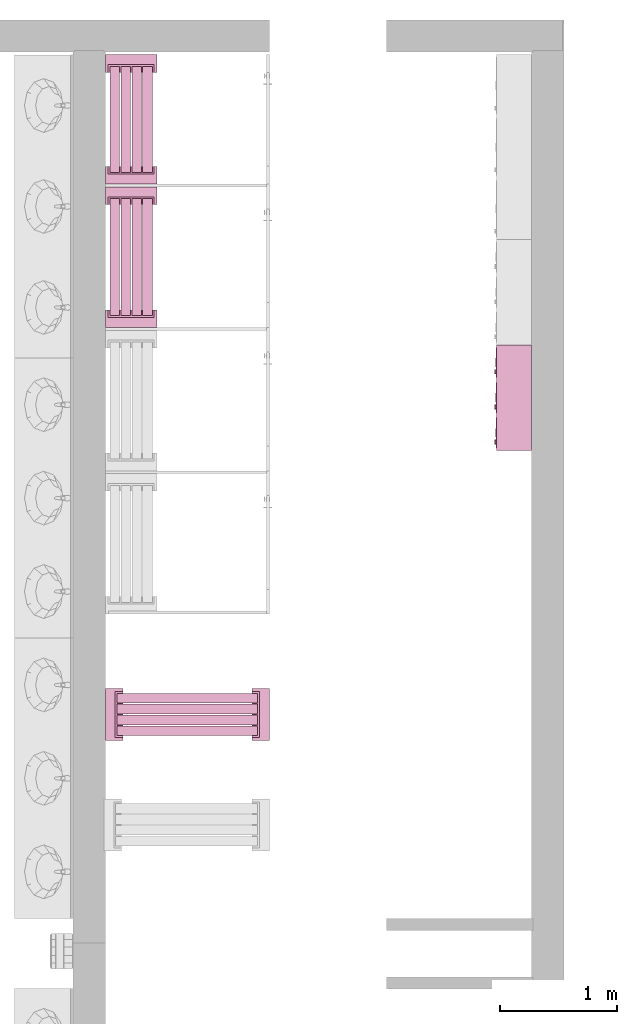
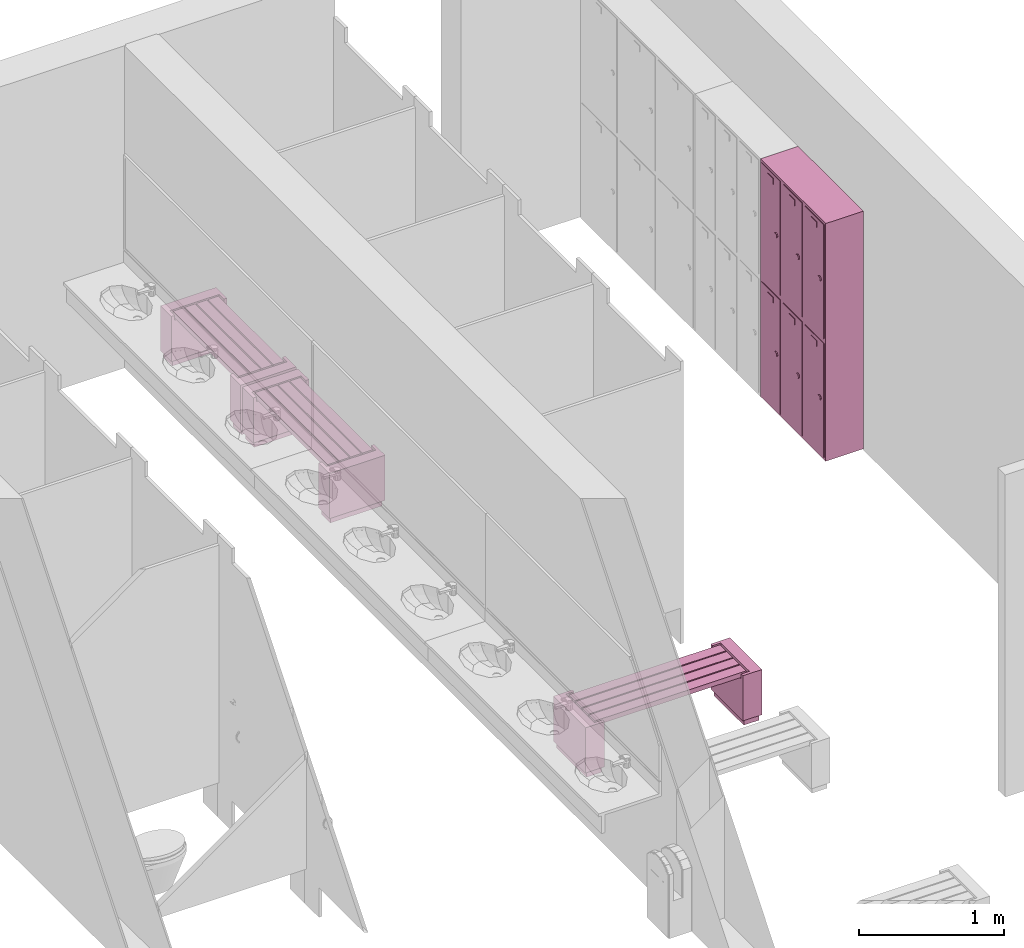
# One storey, part 14 of 22: 4 furnishings.
"""IFC2X3 building model written with IfcOpenShell, lengths in millimetres."""

from ifc_helpers import new_model, entity, si_unit, converted_unit, derived_unit, direction, frame, frame_2d, origin, origin_2d_with_axis, place, context, subcontext, project, spatial, polyline, rectangle, outline, extrude, source, transform, mapped, material, material_list, type_object, type_shapes, element, save


model = new_model("IFC2X3")

# Units and contexts
model_context = context("Model", 3, precision=0.01, world=origin(), true_north=direction((6.12303176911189e-17, 1.0)))
body_context = subcontext(model_context, "Body", "Model", "MODEL_VIEW")
ifc_project = project(units=[si_unit("LENGTHUNIT", "METRE", prefix="MILLI"), si_unit("AREAUNIT", "SQUARE_METRE"), si_unit("VOLUMEUNIT", "CUBIC_METRE"), converted_unit("PLANEANGLEUNIT", "DEGREE", entity("IfcRatioMeasure", 0.0174532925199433), si_unit("PLANEANGLEUNIT", "RADIAN"), dimensions=[0, 0, 0, 0, 0, 0, 0]), si_unit("MASSUNIT", "GRAM", prefix="KILO"), derived_unit("MASSDENSITYUNIT", [(si_unit("MASSUNIT", "GRAM", prefix="KILO"), 1), (si_unit("LENGTHUNIT", "METRE"), -3)]), si_unit("TIMEUNIT", "SECOND"), si_unit("FREQUENCYUNIT", "HERTZ"), si_unit("THERMODYNAMICTEMPERATUREUNIT", "DEGREE_CELSIUS"), derived_unit("THERMALTRANSMITTANCEUNIT", [(si_unit("MASSUNIT", "GRAM", prefix="KILO"), 1), (si_unit("THERMODYNAMICTEMPERATUREUNIT", "KELVIN"), -1), (si_unit("TIMEUNIT", "SECOND"), -3)]), derived_unit("VOLUMETRICFLOWRATEUNIT", [(si_unit("LENGTHUNIT", "METRE"), 3), (si_unit("TIMEUNIT", "SECOND"), -1)]), si_unit("ELECTRICCURRENTUNIT", "AMPERE"), si_unit("ELECTRICVOLTAGEUNIT", "VOLT"), si_unit("POWERUNIT", "WATT"), si_unit("FORCEUNIT", "NEWTON", prefix="KILO"), si_unit("ILLUMINANCEUNIT", "LUX"), si_unit("LUMINOUSFLUXUNIT", "LUMEN"), si_unit("LUMINOUSINTENSITYUNIT", "CANDELA"), derived_unit("USERDEFINED", [(si_unit("MASSUNIT", "GRAM", prefix="KILO"), -1), (si_unit("LENGTHUNIT", "METRE"), -2), (si_unit("TIMEUNIT", "SECOND"), 3), (si_unit("LUMINOUSFLUXUNIT", "LUMEN"), 1)]), derived_unit("LINEARVELOCITYUNIT", [(si_unit("LENGTHUNIT", "METRE"), 1), (si_unit("TIMEUNIT", "SECOND"), -1)]), si_unit("PRESSUREUNIT", "PASCAL"), derived_unit("USERDEFINED", [(si_unit("LENGTHUNIT", "METRE"), -2), (si_unit("MASSUNIT", "GRAM", prefix="KILO"), 1), (si_unit("TIMEUNIT", "SECOND"), -2)])], contexts=[model_context])

# Site, building, storey
site_placement = place(None, origin())
site = spatial("IfcSite", under=ifc_project, at=site_placement, Name="Default", CompositionType="ELEMENT")
building_placement = place(site_placement, origin())
building = spatial("IfcBuilding", under=site, at=building_placement, CompositionType="ELEMENT")
storey_placement = place(building_placement, frame((0.0, 0.0, -3000.0)))
storey = spatial("IfcBuildingStorey", under=building, at=storey_placement, Name="-2. Story", CompositionType="ELEMENT", Elevation=-3000.0)

# Furnishings
ifc_material_1 = material(Name="Metal - Stainless Steel")
ifc_material_2 = material(Name="Paint - Glossy White")
ifc_material_3 = material(Name="Paint - Cobalt Blue")
ifc_material_list_1 = material_list([ifc_material_1, ifc_material_2, ifc_material_3])
ifc_material_list_2 = material_list([ifc_material_1, ifc_material_2, ifc_material_3])
furniture_type_1 = type_object("IfcFurnitureType", Name="FU - 010", material=ifc_material_list_2)
shared_shape_1 = source(origin(), body_context, "Body", "SweptSolid", [
    extrude(outline(polyline([(-7.65366865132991, -18.4775906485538), (7.65366864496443, -18.4775906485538), (18.4775906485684, -7.65366865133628), (18.4775906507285, 7.65366863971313), (7.65366865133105, 18.4775906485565), (-7.65366864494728, 18.4775906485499), (-18.4775906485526, 7.65366865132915), (-18.4775906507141, -7.65366863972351), (-7.65366865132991, -18.4775906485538)])), frame((53933.5254833, 87773.9483369, -1400.0), z_axis=(1.0, 0.0, 0.0), x_axis=(0.0, 0.923879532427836, 0.382683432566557)), (0.0, 0.0, 1.0), 10.0000000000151),
    extrude(rectangle(XDim=4.99999999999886, YDim=75.0000000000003, at=origin_2d_with_axis()), frame((53941.0254833, 87853.9483369, -1000.0), z_axis=(0.0, 0.0, 1.0), x_axis=(-1.0, 0.0, 0.0)), (0.0, 0.0, 1.0), 50.0),
    extrude(rectangle(XDim=9.99999999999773, YDim=259.999999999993, at=frame_2d((0.0, 8.65441052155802e-12), x_axis=(1.0, 0.0))), frame((53948.5254833, 87853.9483369, -1880.0)), (0.0, 0.0, 1.0), 960.0),
    extrude(rectangle(XDim=20.0000000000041, YDim=300.000000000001, at=frame_2d((4.33164615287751e-12, 0.0), x_axis=(1.0, 0.0))), frame((54238.5254833, 87853.9483369, -1900.0), z_axis=(0.0, 0.0, 1.0), x_axis=(-1.0, 0.0, 0.0)), (0.0, 0.0, 1.0), 1000.0),
    extrude(outline(polyline([(-500.0, -150.0), (500.0, -150.0), (500.0, 150.0), (-500.0, 150.0), (-500.0, -150.0)]), holes=[polyline([(480.0, 130.0), (480.0, -130.0), (-480.0, -130.0), (-480.0, 130.0), (480.0, 130.0)])]), frame((53948.5254833, 87853.9483369, -1400.0), z_axis=(1.0, 0.0, 0.0), x_axis=(0.0, 0.0, -1.0)), (0.0, 0.0, 1.0), 279.999999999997),
    extrude(outline(polyline([(-7.65366865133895, -18.477590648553), (7.65366864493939, -18.477590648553), (18.4775906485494, -7.6536686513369), (18.4775906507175, 7.65366863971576), (7.65366865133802, 18.4775906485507), (-7.65366864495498, 18.4775906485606), (-18.477590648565, 7.65366865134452), (-18.4775906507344, -7.65366863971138), (-7.65366865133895, -18.477590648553)])), frame((53933.5254833, 87473.9483369, -1400.0), z_axis=(1.0, 0.0, 0.0), x_axis=(0.0, 0.923879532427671, 0.382683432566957)), (0.0, 0.0, 1.0), 10.0000000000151),
    extrude(rectangle(XDim=4.99999999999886, YDim=75.0000000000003, at=origin_2d_with_axis()), frame((53941.0254833, 87553.9483369, -1000.0), z_axis=(0.0, 0.0, 1.0), x_axis=(-1.0, 0.0, 0.0)), (0.0, 0.0, 1.0), 50.0),
    extrude(rectangle(XDim=9.99999999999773, YDim=259.999999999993, at=frame_2d((0.0, 8.65441052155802e-12), x_axis=(1.0, 0.0))), frame((53948.5254833, 87553.9483369, -1880.0)), (0.0, 0.0, 1.0), 960.0),
    extrude(rectangle(XDim=20.0000000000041, YDim=300.000000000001, at=frame_2d((4.33164615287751e-12, 0.0), x_axis=(1.0, 0.0))), frame((54238.5254833, 87553.9483369, -1900.0), z_axis=(0.0, 0.0, 1.0), x_axis=(-1.0, 0.0, 0.0)), (0.0, 0.0, 1.0), 1000.0),
    extrude(outline(polyline([(-500.0, -150.0), (500.0, -150.0), (500.0, 150.0), (-500.0, 150.0), (-500.0, -150.0)]), holes=[polyline([(480.0, 130.0), (480.0, -130.0), (-480.0, -130.0), (-480.0, 130.0), (480.0, 130.0)])]), frame((53948.5254833, 87553.9483369, -1400.0), z_axis=(1.0, 0.0, 0.0), x_axis=(0.0, 0.0, -1.0)), (0.0, 0.0, 1.0), 279.999999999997),
    extrude(outline(polyline([(-7.65366865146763, -18.4775906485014), (7.65366864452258, -18.4775906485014), (18.4775906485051, -7.65366865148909), (18.4775906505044, 7.65366863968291), (7.65366865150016, 18.4775906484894), (-7.6536686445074, 18.4775906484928), (-18.47759064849, 7.65366865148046), (-18.4775906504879, -7.65366863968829), (-7.65366865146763, -18.4775906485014)])), frame((53933.5254833, 87173.9483369, -1400.0), z_axis=(1.0, 0.0, 0.0), x_axis=(0.0, 0.923879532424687, 0.38268343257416)), (0.0, 0.0, 1.0), 10.0000000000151),
    extrude(rectangle(XDim=4.99999999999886, YDim=75.0000000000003, at=origin_2d_with_axis()), frame((53941.0254833, 87253.9483369, -1000.0), z_axis=(0.0, 0.0, 1.0), x_axis=(-1.0, 0.0, 0.0)), (0.0, 0.0, 1.0), 50.0),
    extrude(rectangle(XDim=9.99999999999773, YDim=259.999999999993, at=frame_2d((0.0, 8.65441052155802e-12), x_axis=(1.0, 0.0))), frame((53948.5254833, 87253.9483369, -1880.0)), (0.0, 0.0, 1.0), 960.0),
    extrude(rectangle(XDim=20.0000000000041, YDim=300.000000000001, at=frame_2d((4.33164615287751e-12, 0.0), x_axis=(1.0, 0.0))), frame((54238.5254833, 87253.9483369, -1900.0), z_axis=(0.0, 0.0, 1.0), x_axis=(-1.0, 0.0, 0.0)), (0.0, 0.0, 1.0), 1000.0),
    extrude(outline(polyline([(-500.0, -150.0), (500.0, -150.0), (500.0, 150.0), (-500.0, 150.0), (-500.0, -150.0)]), holes=[polyline([(480.0, 130.0), (480.0, -130.0), (-480.0, -130.0), (-480.0, 130.0), (480.0, 130.0)])]), frame((53948.5254833, 87253.9483369, -1400.0), z_axis=(1.0, 0.0, 0.0), x_axis=(0.0, 0.0, -1.0)), (0.0, 0.0, 1.0), 279.999999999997),
    extrude(outline(polyline([(-7.65366864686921, -18.4775906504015), (7.65366864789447, -18.4775906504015), (18.477590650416, -7.65366864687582), (18.4775906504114, 7.65366864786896), (7.65366864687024, 18.477590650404), (-7.65366864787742, 18.4775906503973), (-18.4775906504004, 7.65366864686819), (-18.4775906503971, -7.65366864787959), (-7.65366864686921, -18.4775906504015)])), frame((53933.5254833, 87773.9483369, -2400.0), z_axis=(1.0, 0.0, 0.0), x_axis=(0.0, 0.923879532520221, 0.382683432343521)), (0.0, 0.0, 1.0), 10.0000000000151),
    extrude(rectangle(XDim=4.99999999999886, YDim=75.0000000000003, at=origin_2d_with_axis()), frame((53941.0254833, 87853.9483369, -2000.0), z_axis=(0.0, 0.0, 1.0), x_axis=(-1.0, 0.0, 0.0)), (0.0, 0.0, 1.0), 50.0),
    extrude(rectangle(XDim=9.99999999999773, YDim=259.999999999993, at=frame_2d((0.0, 8.65441052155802e-12), x_axis=(1.0, 0.0))), frame((53948.5254833, 87853.9483369, -2880.0)), (0.0, 0.0, 1.0), 960.0),
    extrude(rectangle(XDim=20.0000000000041, YDim=300.000000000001, at=frame_2d((4.33164615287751e-12, 0.0), x_axis=(1.0, 0.0))), frame((54238.5254833, 87853.9483369, -2900.0), z_axis=(0.0, 0.0, 1.0), x_axis=(-1.0, 0.0, 0.0)), (0.0, 0.0, 1.0), 1000.0),
    extrude(outline(polyline([(-500.0, -150.0), (500.0, -150.0), (500.0, 150.0), (-500.0, 150.0), (-500.0, -150.0)]), holes=[polyline([(480.0, 130.0), (480.0, -130.0), (-480.0, -130.0), (-480.0, 130.0), (480.0, 130.0)])]), frame((53948.5254833, 87853.9483369, -2400.0), z_axis=(1.0, 0.0, 0.0), x_axis=(0.0, 0.0, -1.0)), (0.0, 0.0, 1.0), 279.999999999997),
    extrude(outline(polyline([(-7.65366864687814, -18.4775906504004), (7.65366864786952, -18.4775906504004), (18.4775906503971, -7.65366864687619), (18.4775906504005, 7.65366864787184), (7.65366864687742, 18.4775906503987), (-7.65366864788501, 18.4775906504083), (-18.4775906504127, 7.65366864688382), (-18.4775906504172, -7.65366864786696), (-7.65366864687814, -18.4775906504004)])), frame((53933.5254833, 87473.9483369, -2400.0), z_axis=(1.0, 0.0, 0.0), x_axis=(0.0, 0.923879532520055, 0.382683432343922)), (0.0, 0.0, 1.0), 10.0000000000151),
    extrude(rectangle(XDim=4.99999999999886, YDim=75.0000000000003, at=origin_2d_with_axis()), frame((53941.0254833, 87553.9483369, -2000.0), z_axis=(0.0, 0.0, 1.0), x_axis=(-1.0, 0.0, 0.0)), (0.0, 0.0, 1.0), 50.0),
    extrude(rectangle(XDim=9.99999999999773, YDim=259.999999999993, at=frame_2d((0.0, 8.65441052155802e-12), x_axis=(1.0, 0.0))), frame((53948.5254833, 87553.9483369, -2880.0)), (0.0, 0.0, 1.0), 960.0),
    extrude(rectangle(XDim=20.0000000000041, YDim=300.000000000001, at=frame_2d((4.33164615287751e-12, 0.0), x_axis=(1.0, 0.0))), frame((54238.5254833, 87553.9483369, -2900.0), z_axis=(0.0, 0.0, 1.0), x_axis=(-1.0, 0.0, 0.0)), (0.0, 0.0, 1.0), 1000.0),
    extrude(outline(polyline([(-500.0, -150.0), (500.0, -150.0), (500.0, 150.0), (-500.0, 150.0), (-500.0, -150.0)]), holes=[polyline([(480.0, 130.0), (480.0, -130.0), (-480.0, -130.0), (-480.0, 130.0), (480.0, 130.0)])]), frame((53948.5254833, 87553.9483369, -2400.0), z_axis=(1.0, 0.0, 0.0), x_axis=(0.0, 0.0, -1.0)), (0.0, 0.0, 1.0), 279.999999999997),
    extrude(outline(polyline([(-7.65366864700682, -18.4775906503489), (7.65366864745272, -18.4775906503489), (18.4775906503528, -7.65366864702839), (18.4775906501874, 7.65366864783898), (7.65366864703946, 18.4775906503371), (-7.65366864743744, 18.4775906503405), (-18.4775906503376, 7.65366864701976), (-18.4775906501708, -7.65366864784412), (-7.65366864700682, -18.4775906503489)])), frame((53933.5254833, 87173.9483369, -2400.0), z_axis=(1.0, 0.0, 0.0), x_axis=(0.0, 0.923879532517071, 0.382683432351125)), (0.0, 0.0, 1.0), 10.0000000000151),
    extrude(rectangle(XDim=4.99999999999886, YDim=75.0000000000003, at=origin_2d_with_axis()), frame((53941.0254833, 87253.9483369, -2000.0), z_axis=(0.0, 0.0, 1.0), x_axis=(-1.0, 0.0, 0.0)), (0.0, 0.0, 1.0), 50.0),
    extrude(rectangle(XDim=9.99999999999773, YDim=259.999999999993, at=frame_2d((0.0, 8.65441052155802e-12), x_axis=(1.0, 0.0))), frame((53948.5254833, 87253.9483369, -2880.0)), (0.0, 0.0, 1.0), 960.0),
    extrude(rectangle(XDim=20.0000000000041, YDim=300.000000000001, at=frame_2d((4.33164615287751e-12, 0.0), x_axis=(1.0, 0.0))), frame((54238.5254833, 87253.9483369, -2900.0), z_axis=(0.0, 0.0, 1.0), x_axis=(-1.0, 0.0, 0.0)), (0.0, 0.0, 1.0), 1000.0),
    extrude(outline(polyline([(-500.0, -150.0), (500.0, -150.0), (500.0, 150.0), (-500.0, 150.0), (-500.0, -150.0)]), holes=[polyline([(480.0, 130.0), (480.0, -130.0), (-480.0, -130.0), (-480.0, 130.0), (480.0, 130.0)])]), frame((53948.5254833, 87253.9483369, -2400.0), z_axis=(1.0, 0.0, 0.0), x_axis=(0.0, 0.0, -1.0)), (0.0, 0.0, 1.0), 279.999999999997),
])
type_shapes(furniture_type_1, [shared_shape_1])
furnishing_1_placement = place(storey_placement, frame((0.0, 0.0, 3000.0)))
element("IfcFurnishingElement", 1, at=furnishing_1_placement, inside=storey, type_object=furniture_type_1, material=ifc_material_list_1, Name="FU - 010 1547984:FU - 010 1547984", ObjectType="FU - 010 1547984:FU - 010 1547984", context=body_context, shape_type="MappedRepresentation", body=[
    mapped(shared_shape_1, transform((0.0, 0.0, 0.0), scale=1.0)),
])
ifc_material_4 = material(Name="Wood - Pine Grained Horizontal")
ifc_material_5 = material(Name="Paint - Titanium White")
ifc_material_list_3 = material_list([ifc_material_4, ifc_material_5])
ifc_material_list_4 = material_list([ifc_material_4, ifc_material_5])
furniture_type_2 = type_object("IfcFurnitureType", Name="FU - 011", material=ifc_material_list_4)
shared_shape_2 = source(origin(), body_context, "Body", "SweptSolid", [
    extrude(rectangle(XDim=999.999999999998, YDim=83.157548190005, at=frame_2d((8.66862137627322e-12, 4.33431068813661e-12), x_axis=(1.0, 0.0))), frame((50688.062036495, 88753.9483369, -2510.0), z_axis=(0.0, 0.0, 1.0), x_axis=(0.0, 1.0, 0.0)), (0.0, 0.0, 1.0), 40.0000000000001),
    extrude(rectangle(XDim=999.999999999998, YDim=83.1575481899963, at=frame_2d((8.66862137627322e-12, 0.0), x_axis=(1.0, 0.0))), frame((50781.219584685, 88753.9483369, -2510.0), z_axis=(0.0, 0.0, 1.0), x_axis=(0.0, 1.0, 0.0)), (0.0, 0.0, 1.0), 40.0000000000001),
    extrude(rectangle(XDim=999.999999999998, YDim=83.1575481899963, at=frame_2d((8.66862137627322e-12, 0.0), x_axis=(1.0, 0.0))), frame((50874.377132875, 88753.9483369, -2510.0), z_axis=(0.0, 0.0, 1.0), x_axis=(0.0, 1.0, 0.0)), (0.0, 0.0, 1.0), 40.0000000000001),
    extrude(rectangle(XDim=999.999999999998, YDim=83.157548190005, at=frame_2d((8.66862137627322e-12, 4.33431068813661e-12), x_axis=(1.0, 0.0))), frame((50967.534681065, 88753.9483369, -2510.0), z_axis=(0.0, 0.0, 1.0), x_axis=(0.0, 1.0, 0.0)), (0.0, 0.0, 1.0), 40.0000000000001),
    extrude(outline(polyline([(-221.315096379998, -96.2499999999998), (221.315096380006, -96.2499999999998), (221.315096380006, 53.7500000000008), (196.315096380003, 53.7500000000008), (196.315096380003, -11.2499999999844), (-196.315096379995, -11.2499999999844), (-196.315096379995, 53.7500000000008), (-221.315096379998, 53.7500000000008), (-221.315096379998, -96.2499999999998)])), frame((50827.79835878, 88250.1983369, -2510.0)), (0.0, 0.0, 1.0), 40.0000000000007),
    extrude(rectangle(XDim=442.630192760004, YDim=150.000000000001, at=frame_2d((-4.33431068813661e-12, 0.0), x_axis=(1.0, 0.0))), frame((50827.79835878, 88228.9483369, -2850.0)), (0.0, 0.0, 1.0), 340.0),
    extrude(rectangle(XDim=412.630192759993, YDim=119.99999999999, at=frame_2d((-4.33431068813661e-12, 8.66506866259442e-12), x_axis=(1.0, 0.0))), frame((50827.79835878, 88228.9483369, -2900.0)), (0.0, 0.0, 1.0), 50.0),
    extrude(outline(polyline([(-53.7499999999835, -221.315096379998), (96.2500000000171, -221.315096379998), (96.2500000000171, 221.315096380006), (-53.7499999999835, 221.315096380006), (-53.7499999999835, 196.315096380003), (11.2500000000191, 196.315096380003), (11.2500000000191, -196.315096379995), (-53.7499999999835, -196.315096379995), (-53.7499999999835, -221.315096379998)])), frame((50827.79835878, 89257.6983369, -2510.0), z_axis=(0.0, 0.0, 1.0), x_axis=(0.0, 1.0, 0.0)), (0.0, 0.0, 1.0), 40.0000000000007),
    extrude(rectangle(XDim=150.000000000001, YDim=442.630192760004, at=frame_2d((0.0, 4.33431068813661e-12), x_axis=(1.0, 0.0))), frame((50827.79835878, 89278.9483369, -2850.0), z_axis=(0.0, 0.0, 1.0), x_axis=(0.0, 1.0, 0.0)), (0.0, 0.0, 1.0), 340.0),
    extrude(rectangle(XDim=120.000000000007, YDim=412.630192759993, at=frame_2d((0.0, 4.33431068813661e-12), x_axis=(1.0, 0.0))), frame((50827.79835878, 89278.9483369, -2900.0), z_axis=(0.0, 0.0, 1.0), x_axis=(0.0, 1.0, 0.0)), (0.0, 0.0, 1.0), 50.0),
])
type_shapes(furniture_type_2, [shared_shape_2])
furnishing_2_placement = place(storey_placement, frame((0.0, 0.0, 3000.0)))
element("IfcFurnishingElement", 2, at=furnishing_2_placement, inside=storey, type_object=furniture_type_2, material=ifc_material_list_3, Name="FU - 011 1550631:FU - 011 1550631", ObjectType="FU - 011 1550631:FU - 011 1550631", context=body_context, shape_type="MappedRepresentation", body=[
    mapped(shared_shape_2, transform((0.0, 0.0, 0.0), scale=1.0)),
])
ifc_material_list_5 = material_list([ifc_material_4, ifc_material_5])
ifc_material_list_6 = material_list([ifc_material_4, ifc_material_5])
furniture_type_3 = type_object("IfcFurnitureType", Name="FU - 011", material=ifc_material_list_6)
shared_shape_3 = source(origin(), body_context, "Body", "SweptSolid", [
    extrude(rectangle(XDim=1202.37365918, YDim=83.1575481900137, at=origin_2d_with_axis()), frame((51307.67009191, 84986.314851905, -2510.0)), (0.0, 0.0, 1.0), 40.0000000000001),
    extrude(rectangle(XDim=1202.37365918, YDim=83.157548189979, at=origin_2d_with_axis()), frame((51307.67009191, 84893.157303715, -2510.0)), (0.0, 0.0, 1.0), 40.0000000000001),
    extrude(rectangle(XDim=1202.37365918, YDim=83.1575481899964, at=frame_2d((0.0, -8.66506866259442e-12), x_axis=(1.0, 0.0))), frame((51307.67009191, 84799.999755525, -2510.0)), (0.0, 0.0, 1.0), 40.0000000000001),
    extrude(rectangle(XDim=1202.37365918, YDim=83.1575481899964, at=frame_2d((0.0, 8.66506866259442e-12), x_axis=(1.0, 0.0))), frame((51307.67009191, 84706.842207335, -2510.0)), (0.0, 0.0, 1.0), 40.0000000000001),
    extrude(outline(polyline([(-221.315096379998, -96.2499999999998), (221.315096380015, -96.2499999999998), (221.315096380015, 53.7500000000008), (196.315096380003, 53.7500000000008), (196.315096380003, -11.2499999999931), (-196.315096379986, -11.2499999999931), (-196.315096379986, 53.7500000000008), (-221.315096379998, 53.7500000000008), (-221.315096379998, -96.2499999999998)])), frame((50702.73326232, 84846.57852962, -2510.0), z_axis=(0.0, 0.0, 1.0), x_axis=(0.0, -1.0, 0.0)), (0.0, 0.0, 1.0), 40.0000000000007),
    extrude(rectangle(XDim=442.630192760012, YDim=150.000000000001, at=frame_2d((8.66862137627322e-12, 0.0), x_axis=(1.0, 0.0))), frame((50681.48326232, 84846.57852962, -2850.0), z_axis=(0.0, 0.0, 1.0), x_axis=(0.0, -1.0, 0.0)), (0.0, 0.0, 1.0), 340.0),
    extrude(rectangle(XDim=412.630192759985, YDim=119.999999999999, at=frame_2d((8.66862137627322e-12, -4.33075797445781e-12), x_axis=(1.0, 0.0))), frame((50681.48326232, 84846.57852962, -2900.0), z_axis=(0.0, 0.0, 1.0), x_axis=(0.0, -1.0, 0.0)), (0.0, 0.0, 1.0), 50.0),
    extrude(outline(polyline([(-53.7500000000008, -221.315096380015), (96.2499999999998, -221.315096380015), (96.2499999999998, 221.315096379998), (-53.7500000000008, 221.315096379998), (-53.7500000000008, 196.315096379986), (11.2500000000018, 196.315096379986), (11.2500000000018, -196.315096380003), (-53.7500000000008, -196.315096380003), (-53.7500000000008, -221.315096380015)])), frame((51912.6069215, 84846.57852962, -2510.0)), (0.0, 0.0, 1.0), 40.0000000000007),
    extrude(rectangle(XDim=150.000000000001, YDim=442.630192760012, at=frame_2d((0.0, -8.66862137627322e-12), x_axis=(1.0, 0.0))), frame((51933.8569215, 84846.57852962, -2850.0)), (0.0, 0.0, 1.0), 340.0),
    extrude(rectangle(XDim=119.999999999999, YDim=412.630192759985, at=frame_2d((4.33075797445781e-12, -8.66862137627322e-12), x_axis=(1.0, 0.0))), frame((51933.8569215, 84846.57852962, -2900.0)), (0.0, 0.0, 1.0), 50.0),
])
type_shapes(furniture_type_3, [shared_shape_3])
furnishing_3_placement = place(storey_placement, frame((0.0, 0.0, 3000.0)))
element("IfcFurnishingElement", 3, at=furnishing_3_placement, inside=storey, type_object=furniture_type_3, material=ifc_material_list_5, Name="FU - 011 1552155:FU - 011 1552155", ObjectType="FU - 011 1552155:FU - 011 1552155", context=body_context, shape_type="MappedRepresentation", body=[
    mapped(shared_shape_3, transform((0.0, 0.0, 0.0), scale=1.0)),
])
ifc_material_list_7 = material_list([ifc_material_4, ifc_material_5])
ifc_material_list_8 = material_list([ifc_material_4, ifc_material_5])
furniture_type_4 = type_object("IfcFurnitureType", Name="FU - 011", material=ifc_material_list_8)
shared_shape_4 = source(origin(), body_context, "Body", "SweptSolid", [
    extrude(rectangle(XDim=904.272366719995, YDim=83.157548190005, at=frame_2d((-8.66862137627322e-12, 4.33431068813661e-12), x_axis=(1.0, 0.0))), frame((50688.062036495, 89931.08452024, -2510.0), z_axis=(0.0, 0.0, 1.0), x_axis=(0.0, 1.0, 0.0)), (0.0, 0.0, 1.0), 40.0000000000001),
    extrude(rectangle(XDim=904.272366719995, YDim=83.1575481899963, at=frame_2d((-8.66862137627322e-12, 0.0), x_axis=(1.0, 0.0))), frame((50781.219584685, 89931.08452024, -2510.0), z_axis=(0.0, 0.0, 1.0), x_axis=(0.0, 1.0, 0.0)), (0.0, 0.0, 1.0), 40.0000000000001),
    extrude(rectangle(XDim=904.272366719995, YDim=83.1575481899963, at=frame_2d((-8.66862137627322e-12, 0.0), x_axis=(1.0, 0.0))), frame((50874.377132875, 89931.08452024, -2510.0), z_axis=(0.0, 0.0, 1.0), x_axis=(0.0, 1.0, 0.0)), (0.0, 0.0, 1.0), 40.0000000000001),
    extrude(rectangle(XDim=904.272366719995, YDim=83.157548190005, at=frame_2d((-8.66862137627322e-12, 4.33431068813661e-12), x_axis=(1.0, 0.0))), frame((50967.534681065, 89931.08452024, -2510.0), z_axis=(0.0, 0.0, 1.0), x_axis=(0.0, 1.0, 0.0)), (0.0, 0.0, 1.0), 40.0000000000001),
    extrude(outline(polyline([(-221.315096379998, -96.2499999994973), (221.315096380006, -96.2499999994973), (221.315096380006, 53.7499999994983), (196.315096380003, 53.7499999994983), (196.315096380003, -11.2499999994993), (-196.315096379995, -11.2499999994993), (-196.315096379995, 53.7499999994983), (-221.315096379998, 53.7499999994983), (-221.315096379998, -96.2499999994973)])), frame((50827.79835878, 89475.1983368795, -2510.0)), (0.0, 0.0, 1.0), 40.0000000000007),
    extrude(rectangle(XDim=442.630192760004, YDim=149.999999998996, at=frame_2d((-4.33431068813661e-12, 0.0), x_axis=(1.0, 0.0))), frame((50827.79835878, 89453.9483368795, -2850.0)), (0.0, 0.0, 1.0), 340.0),
    extrude(rectangle(XDim=412.630192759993, YDim=119.999999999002, at=frame_2d((-4.33431068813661e-12, 0.0), x_axis=(1.0, 0.0))), frame((50827.79835878, 89453.9483368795, -2900.0)), (0.0, 0.0, 1.0), 50.0),
    extrude(outline(polyline([(-53.7499999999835, -221.315096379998), (96.2500000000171, -221.315096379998), (96.2500000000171, 221.315096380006), (-53.7499999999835, 221.315096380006), (-53.7499999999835, 196.315096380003), (11.2500000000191, 196.315096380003), (11.2500000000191, -196.315096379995), (-53.7499999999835, -196.315096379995), (-53.7499999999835, -221.315096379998)])), frame((50827.79835878, 90386.9707036, -2510.0), z_axis=(0.0, 0.0, 1.0), x_axis=(0.0, 1.0, 0.0)), (0.0, 0.0, 1.0), 40.0000000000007),
    extrude(rectangle(XDim=150.000000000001, YDim=442.630192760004, at=frame_2d((0.0, 4.33431068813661e-12), x_axis=(1.0, 0.0))), frame((50827.79835878, 90408.2207036, -2850.0), z_axis=(0.0, 0.0, 1.0), x_axis=(0.0, 1.0, 0.0)), (0.0, 0.0, 1.0), 340.0),
    extrude(rectangle(XDim=119.99999999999, YDim=412.630192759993, at=frame_2d((-8.66506866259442e-12, 4.33431068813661e-12), x_axis=(1.0, 0.0))), frame((50827.79835878, 90408.2207036, -2900.0), z_axis=(0.0, 0.0, 1.0), x_axis=(0.0, 1.0, 0.0)), (0.0, 0.0, 1.0), 50.0),
])
type_shapes(furniture_type_4, [shared_shape_4])
furnishing_4_placement = place(storey_placement, frame((0.0, 0.0, 3000.0)))
element("IfcFurnishingElement", 4, at=furnishing_4_placement, inside=storey, type_object=furniture_type_4, material=ifc_material_list_7, Name="FU - 011 1570972:FU - 011 1570972", ObjectType="FU - 011 1570972:FU - 011 1570972", context=body_context, shape_type="MappedRepresentation", body=[
    mapped(shared_shape_4, transform((0.0, 0.0, 0.0), scale=1.0)),
])

save(model, "model.ifc")
